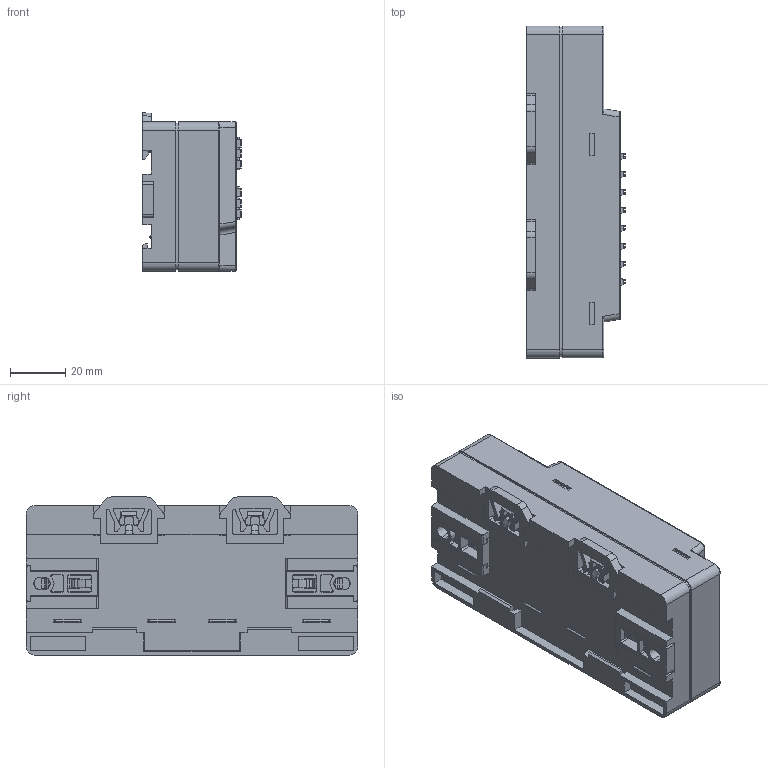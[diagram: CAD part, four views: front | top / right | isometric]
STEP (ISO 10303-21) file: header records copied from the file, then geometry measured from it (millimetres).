
FILE_DESCRIPTION (( 'STEP AP203' ), '1' );
FILE_NAME ('EI-16.STEP', '2026-08-18T09:58:29', ( '' ), ( '' ), 'SwSTEP 2.0', 'SolidWorks 2019', '' );
FILE_SCHEMA (( 'CONFIG_CONTROL_DESIGN' ));
Products named in the file (1): EI-16
Bounding box: 35.8 x 120 x 57.2 mm (x, y, z)
Volume: 162774.5 mm3; surface area: 83510.1 mm2
Topology: 7 solids, 56 shells, 7278 faces, 20164 edges, 13012 vertices
Faces by surface type: plane 4792, cylinder 1771, bspline 314, cone 240, torus 116, sphere 45
Entity records: 249550 total; most frequent: CARTESIAN_POINT 65622, ORIENTED_EDGE 40094, DIRECTION 35726, EDGE_CURVE 20047, LINE 14874, VECTOR 14874, VERTEX_POINT 12955, AXIS2_PLACEMENT_3D 10426
